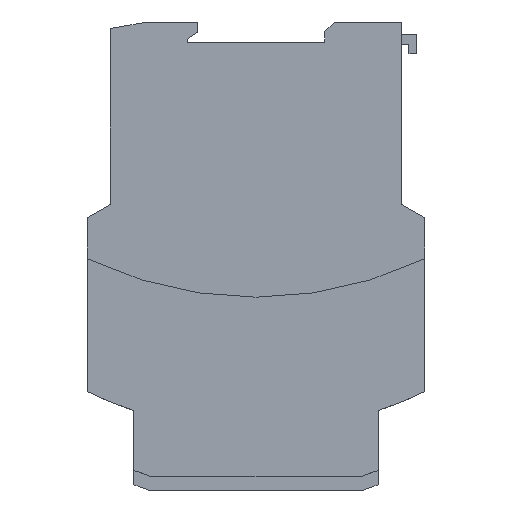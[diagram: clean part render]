
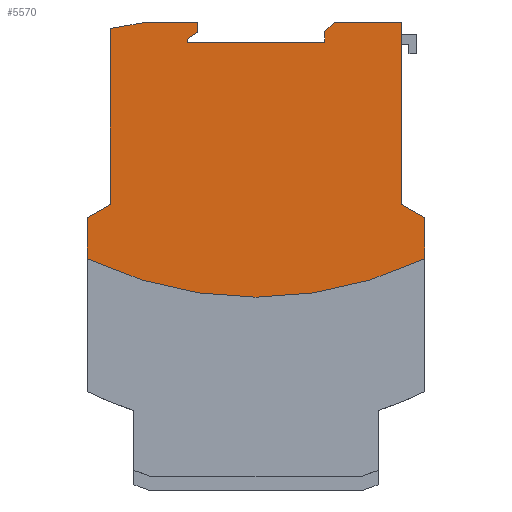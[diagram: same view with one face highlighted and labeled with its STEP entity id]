
A CAD part, front view. The second image highlights one B-rep face of the part: STEP entity #5570.
In plain terms, the highlighted planar face has unit normal (0, -1, 0).
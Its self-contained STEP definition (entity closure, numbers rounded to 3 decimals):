
#1401=DIRECTION('',(1.,0.,0.));
#1402=VECTOR('',#1401,0.25);
#1403=CARTESIAN_POINT('',(43.2,-22.45,56.));
#1404=LINE('',#1403,#1402);
#1421=DIRECTION('',(0.,0.,1.));
#1422=VECTOR('',#1421,10.665);
#1423=CARTESIAN_POINT('',(-43.45,-22.45,56.));
#1424=LINE('',#1423,#1422);
#1425=DIRECTION('',(0.866,0.,0.5));
#1426=VECTOR('',#1425,6.87);
#1427=CARTESIAN_POINT('',(-43.45,-22.45,66.665));
#1428=LINE('',#1427,#1426);
#1429=DIRECTION('',(0.,0.,1.));
#1430=VECTOR('',#1429,45.325);
#1431=CARTESIAN_POINT('',(-37.5,-22.45,70.1));
#1432=LINE('',#1431,#1430);
#1433=DIRECTION('',(0.985,0.,0.174));
#1434=VECTOR('',#1433,9.647);
#1435=CARTESIAN_POINT('',(-37.5,-22.45,115.425));
#1436=LINE('',#1435,#1434);
#1437=DIRECTION('',(1.,0.,0.));
#1438=VECTOR('',#1437,12.9);
#1439=CARTESIAN_POINT('',(-28.,-22.45,117.1));
#1440=LINE('',#1439,#1438);
#1441=DIRECTION('',(0.,0.,-1.));
#1442=VECTOR('',#1441,2.579);
#1443=CARTESIAN_POINT('',(-15.1,-22.45,117.1));
#1444=LINE('',#1443,#1442);
#1445=DIRECTION('',(-0.819,0.,-0.574));
#1446=VECTOR('',#1445,3.174);
#1447=CARTESIAN_POINT('',(-15.1,-22.45,114.521));
#1448=LINE('',#1447,#1446);
#1449=DIRECTION('',(0.,0.,-1.));
#1450=VECTOR('',#1449,0.8);
#1451=CARTESIAN_POINT('',(-17.7,-22.45,112.7));
#1452=LINE('',#1451,#1450);
#1453=DIRECTION('',(1.,0.,0.));
#1454=VECTOR('',#1453,35.4);
#1455=CARTESIAN_POINT('',(-17.7,-22.45,111.9));
#1456=LINE('',#1455,#1454);
#1457=DIRECTION('',(0.,0.,1.));
#1458=VECTOR('',#1457,2.7);
#1459=CARTESIAN_POINT('',(17.7,-22.45,111.9));
#1460=LINE('',#1459,#1458);
#1461=DIRECTION('',(0.707,0.,0.707));
#1462=VECTOR('',#1461,3.535);
#1463=CARTESIAN_POINT('',(17.7,-22.45,114.6));
#1464=LINE('',#1463,#1462);
#1465=DIRECTION('',(1.,0.,0.));
#1466=VECTOR('',#1465,17.3);
#1467=CARTESIAN_POINT('',(20.2,-22.45,117.1));
#1468=LINE('',#1467,#1466);
#1469=DIRECTION('',(0.,0.,-1.));
#1470=VECTOR('',#1469,47.);
#1471=CARTESIAN_POINT('',(37.5,-22.45,117.1));
#1472=LINE('',#1471,#1470);
#1473=DIRECTION('',(0.866,0.,-0.5));
#1474=VECTOR('',#1473,6.87);
#1475=CARTESIAN_POINT('',(37.5,-22.45,70.1));
#1476=LINE('',#1475,#1474);
#1477=DIRECTION('',(0.,0.,-1.));
#1478=VECTOR('',#1477,10.665);
#1479=CARTESIAN_POINT('',(43.45,-22.45,66.665));
#1480=LINE('',#1479,#1478);
#1481=DIRECTION('',(1.,0.,0.));
#1482=VECTOR('',#1481,0.25);
#1483=CARTESIAN_POINT('',(-43.45,-22.45,56.));
#1484=LINE('',#1483,#1482);
#1497=CARTESIAN_POINT('',(0.,-22.45,146.187));
#1498=DIRECTION('',(0.,1.,0.));
#1499=DIRECTION('',(0.432,0.,-0.902));
#1500=AXIS2_PLACEMENT_3D('',#1497,#1498,#1499);
#3163=CARTESIAN_POINT('',(17.7,-22.45,111.9));
#3164=CARTESIAN_POINT('',(17.7,-22.45,114.6));
#3165=VERTEX_POINT('',#3163);
#3166=VERTEX_POINT('',#3164);
#3167=CARTESIAN_POINT('',(20.2,-22.45,117.1));
#3168=VERTEX_POINT('',#3167);
#3169=CARTESIAN_POINT('',(37.5,-22.45,117.1));
#3170=VERTEX_POINT('',#3169);
#3171=CARTESIAN_POINT('',(37.5,-22.45,70.1));
#3172=VERTEX_POINT('',#3171);
#3173=CARTESIAN_POINT('',(43.45,-22.45,66.665));
#3174=VERTEX_POINT('',#3173);
#3175=CARTESIAN_POINT('',(-43.45,-22.45,66.665));
#3176=CARTESIAN_POINT('',(-37.5,-22.45,70.1));
#3177=VERTEX_POINT('',#3175);
#3178=VERTEX_POINT('',#3176);
#3179=CARTESIAN_POINT('',(-37.5,-22.45,115.425));
#3180=VERTEX_POINT('',#3179);
#3181=CARTESIAN_POINT('',(-28.,-22.45,117.1));
#3182=VERTEX_POINT('',#3181);
#3183=CARTESIAN_POINT('',(-15.1,-22.45,117.1));
#3184=VERTEX_POINT('',#3183);
#3185=CARTESIAN_POINT('',(-15.1,-22.45,114.521));
#3186=VERTEX_POINT('',#3185);
#3187=CARTESIAN_POINT('',(-17.7,-22.45,112.7));
#3188=VERTEX_POINT('',#3187);
#3189=CARTESIAN_POINT('',(-17.7,-22.45,111.9));
#3190=VERTEX_POINT('',#3189);
#3243=CARTESIAN_POINT('',(-43.45,-22.45,56.));
#3244=CARTESIAN_POINT('',(-43.2,-22.45,56.));
#3245=VERTEX_POINT('',#3243);
#3246=VERTEX_POINT('',#3244);
#3251=CARTESIAN_POINT('',(43.2,-22.45,56.));
#3252=VERTEX_POINT('',#3251);
#3255=CARTESIAN_POINT('',(43.45,-22.45,56.));
#3256=VERTEX_POINT('',#3255);
#5528=CARTESIAN_POINT('',(0.,-22.45,0.));
#5529=DIRECTION('',(0.,1.,0.));
#5530=DIRECTION('',(1.,0.,0.));
#5531=AXIS2_PLACEMENT_3D('',#5528,#5529,#5530);
#5532=PLANE('',#5531);
#5534=ORIENTED_EDGE('',*,*,#5533,.F.);
#5536=ORIENTED_EDGE('',*,*,#5535,.T.);
#5538=ORIENTED_EDGE('',*,*,#5537,.T.);
#5540=ORIENTED_EDGE('',*,*,#5539,.T.);
#5542=ORIENTED_EDGE('',*,*,#5541,.T.);
#5544=ORIENTED_EDGE('',*,*,#5543,.T.);
#5546=ORIENTED_EDGE('',*,*,#5545,.T.);
#5548=ORIENTED_EDGE('',*,*,#5547,.T.);
#5550=ORIENTED_EDGE('',*,*,#5549,.T.);
#5552=ORIENTED_EDGE('',*,*,#5551,.T.);
#5554=ORIENTED_EDGE('',*,*,#5553,.T.);
#5556=ORIENTED_EDGE('',*,*,#5555,.T.);
#5558=ORIENTED_EDGE('',*,*,#5557,.T.);
#5560=ORIENTED_EDGE('',*,*,#5559,.T.);
#5562=ORIENTED_EDGE('',*,*,#5561,.T.);
#5564=ORIENTED_EDGE('',*,*,#5563,.T.);
#5565=ORIENTED_EDGE('',*,*,#5512,.F.);
#5567=ORIENTED_EDGE('',*,*,#5566,.T.);
#5568=EDGE_LOOP('',(#5534,#5536,#5538,#5540,#5542,#5544,#5546,#5548,#5550,#5552,
#5554,#5556,#5558,#5560,#5562,#5564,#5565,#5567));
#5569=FACE_OUTER_BOUND('',#5568,.F.);
#5570=ADVANCED_FACE('',(#5569),#5532,.F.);
#1501=CIRCLE('',#1500,100.);
#5512=EDGE_CURVE('',#3252,#3256,#1404,.T.);
#5533=EDGE_CURVE('',#3245,#3246,#1484,.T.);
#5535=EDGE_CURVE('',#3245,#3177,#1424,.T.);
#5537=EDGE_CURVE('',#3177,#3178,#1428,.T.);
#5539=EDGE_CURVE('',#3178,#3180,#1432,.T.);
#5541=EDGE_CURVE('',#3180,#3182,#1436,.T.);
#5543=EDGE_CURVE('',#3182,#3184,#1440,.T.);
#5545=EDGE_CURVE('',#3184,#3186,#1444,.T.);
#5547=EDGE_CURVE('',#3186,#3188,#1448,.T.);
#5549=EDGE_CURVE('',#3188,#3190,#1452,.T.);
#5551=EDGE_CURVE('',#3190,#3165,#1456,.T.);
#5553=EDGE_CURVE('',#3165,#3166,#1460,.T.);
#5555=EDGE_CURVE('',#3166,#3168,#1464,.T.);
#5557=EDGE_CURVE('',#3168,#3170,#1468,.T.);
#5559=EDGE_CURVE('',#3170,#3172,#1472,.T.);
#5561=EDGE_CURVE('',#3172,#3174,#1476,.T.);
#5563=EDGE_CURVE('',#3174,#3256,#1480,.T.);
#5566=EDGE_CURVE('',#3252,#3246,#1501,.T.);
